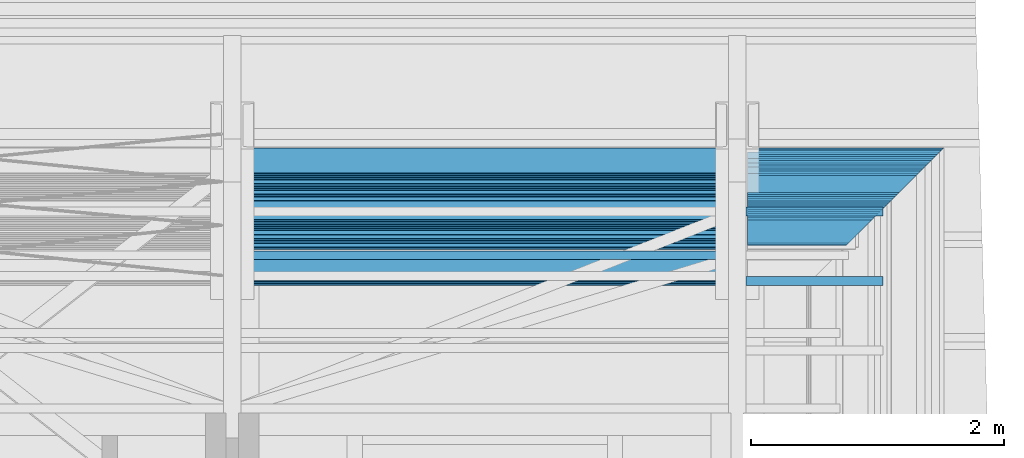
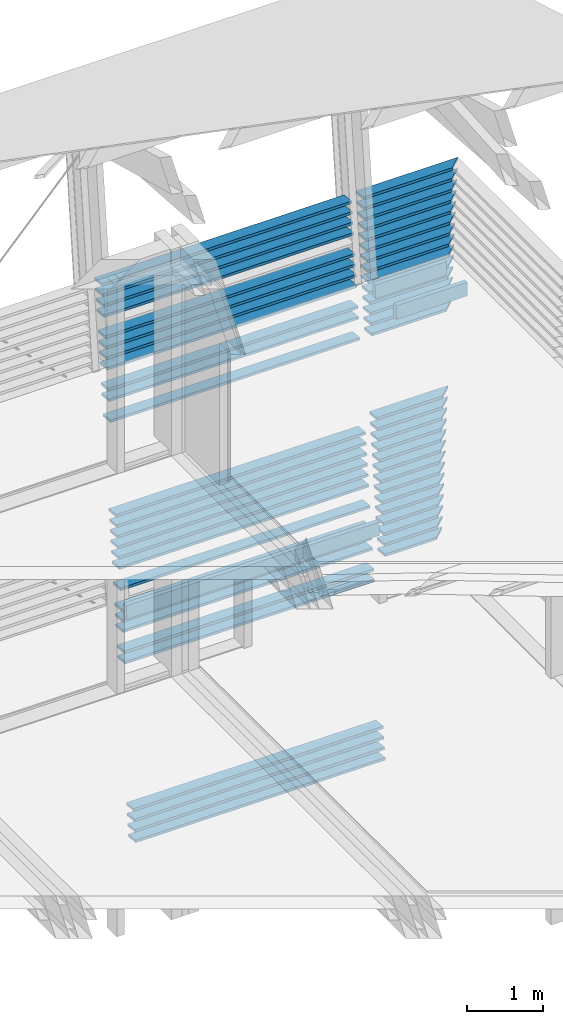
# One storey, part 28 of 48: 58 beams.
"""IFC2X3 building model written with IfcOpenShell, lengths in metres."""

from ifc_helpers import new_model, si_unit, direction, frame, origin_with_axes, place, context, subcontext, project, spatial, faceted_brep, material, element, save


model = new_model("IFC2X3")

# Units and contexts
model_context = context("Model", 3, precision=1e-06, world=origin_with_axes(), true_north=direction((0.0, 1.0, 0.0)))
body_context = subcontext(model_context, "Body", "Model", "MODEL_VIEW")
ifc_project = project(units=[si_unit("LENGTHUNIT", "METRE"), si_unit("AREAUNIT", "SQUARE_METRE"), si_unit("VOLUMEUNIT", "CUBIC_METRE"), si_unit("PLANEANGLEUNIT", "RADIAN")], contexts=[model_context])

# Site, building, storey
site_placement = place(None, origin_with_axes())
site = spatial("IfcSite", under=ifc_project, at=site_placement, CompositionType="ELEMENT")
building_placement = place(site_placement, origin_with_axes())
building = spatial("IfcBuilding", under=site, at=building_placement, Name="Building 1", CompositionType="ELEMENT")
storey_placement = place(building_placement, origin_with_axes())
storey = spatial("IfcBuildingStorey", under=building, at=storey_placement, Name="Storey 1", CompositionType="ELEMENT", Elevation=0.0)

# Beams
ifc_material_1 = material(Name="Moabi")
beam_1_placement = place(storey_placement, frame((69.3927437, -182.77016, 8.9875849), z_axis=(0.0, -0.9945219, 0.1045285), x_axis=(-1.0, 0.0, 0.0)))
element("IfcBeam", 1, at=beam_1_placement, inside=storey, material=ifc_material_1, Name="garde corp", context=body_context, shape_type="Brep", body=[
    faceted_brep([(3.806, -0.02, 0.1), (3.806, 0.02, 0.1), (0.0, 0.02, 0.1), (0.0, -0.02, 0.1), (3.806, 0.02, -0.1), (0.0, 0.02, -0.1), (3.806, -0.02, -0.1), (0.0, -0.02, -0.1)], [[[0, 1, 2, 3]], [[1, 4, 5, 2]], [[4, 6, 7, 5]], [[6, 0, 3, 7]], [[1, 0, 6, 4]], [[7, 3, 2, 5]]]),
])
beam_2_placement = place(storey_placement, frame((70.6405199, -183.2551721, 4.3730033), z_axis=(0.0, -0.9945219, 0.1045285), x_axis=(-1.0, 0.0, 0.0)))
element("IfcBeam", 2, at=beam_2_placement, inside=storey, material=ifc_material_1, Name="garde corp", context=body_context, shape_type="Brep", body=[
    faceted_brep([(0.0041811, 0.02, -0.1), (0.0, -0.02, -0.1), (0.1989044, -0.02, 0.1), (0.2030855, 0.02, 0.1), (1.068997, -0.02, -0.1), (1.068997, -0.02, 0.1), (1.068997, 0.02, -0.1), (1.068997, 0.02, 0.1)], [[[0, 1, 2, 3]], [[2, 1, 4, 5]], [[1, 0, 6, 4]], [[0, 3, 7, 6]], [[3, 2, 5, 7]], [[7, 5, 4, 6]]]),
])
beam_3_placement = place(storey_placement, frame((70.7074182, -183.1882738, 5.0094973), z_axis=(0.0, -0.9945219, 0.1045285), x_axis=(-1.0, 0.0, 0.0)))
element("IfcBeam", 3, at=beam_3_placement, inside=storey, material=ifc_material_1, Name="garde corp", context=body_context, shape_type="Brep", body=[
    faceted_brep([(0.0041811, 0.02, -0.1), (0.0, -0.02, -0.1), (0.1989044, -0.02, 0.1), (0.2030855, 0.02, 0.1), (1.1358953, -0.02, -0.1), (1.1358953, -0.02, 0.1), (1.1358953, 0.02, -0.1), (1.1358953, 0.02, 0.1)], [[[0, 1, 2, 3]], [[2, 1, 4, 5]], [[1, 0, 6, 4]], [[0, 3, 7, 6]], [[3, 2, 5, 7]], [[7, 5, 4, 6]]]),
])
beam_4_placement = place(storey_placement, frame((70.7575918, -183.1381002, 5.4868678), z_axis=(0.0, -0.9945219, 0.1045285), x_axis=(-1.0, 0.0, 0.0)))
element("IfcBeam", 4, at=beam_4_placement, inside=storey, material=ifc_material_1, Name="garde corp", context=body_context, shape_type="Brep", body=[
    faceted_brep([(0.0041811, 0.02, -0.1), (0.0, -0.02, -0.1), (0.1989044, -0.02, 0.1), (0.2030855, 0.02, 0.1), (1.1860689, -0.02, -0.1), (1.1860689, -0.02, 0.1), (1.1860689, 0.02, -0.1), (1.1860689, 0.02, 0.1)], [[[0, 1, 2, 3]], [[2, 1, 4, 5]], [[1, 0, 6, 4]], [[0, 3, 7, 6]], [[3, 2, 5, 7]], [[7, 5, 4, 6]]]),
])
beam_5_placement = place(storey_placement, frame((70.6237954, -183.2718966, 4.2138798), z_axis=(0.0, -0.9945219, 0.1045285), x_axis=(-1.0, 0.0, 0.0)))
element("IfcBeam", 5, at=beam_5_placement, inside=storey, material=ifc_material_1, Name="garde corp", context=body_context, shape_type="Brep", body=[
    faceted_brep([(0.0041811, 0.02, -0.1), (0.0, -0.02, -0.1), (0.1989044, -0.02, 0.1), (0.2030855, 0.02, 0.1), (1.0522725, -0.02, -0.1), (1.0522725, -0.02, 0.1), (1.0522725, 0.02, -0.1), (1.0522725, 0.02, 0.1)], [[[0, 1, 2, 3]], [[2, 1, 4, 5]], [[1, 0, 6, 4]], [[0, 3, 7, 6]], [[3, 2, 5, 7]], [[7, 5, 4, 6]]]),
])
beam_6_placement = place(storey_placement, frame((70.9582865, -182.9374055, 7.3963498), z_axis=(0.0, -0.9945219, 0.1045285), x_axis=(-1.0, 0.0, 0.0)))
element("IfcBeam", 6, at=beam_6_placement, inside=storey, material=ifc_material_1, Name="garde corp", context=body_context, shape_type="Brep", body=[
    faceted_brep([(0.0041811, 0.02, -0.1), (0.0, -0.02, -0.1), (0.1989044, -0.02, 0.1), (0.2030855, 0.02, 0.1), (1.3867636, -0.02, -0.1), (1.3867636, -0.02, 0.1), (1.3867636, 0.02, -0.1), (1.3867636, 0.02, 0.1)], [[[0, 1, 2, 3]], [[2, 1, 4, 5]], [[1, 0, 6, 4]], [[0, 3, 7, 6]], [[3, 2, 5, 7]], [[7, 5, 4, 6]]]),
])
beam_7_placement = place(storey_placement, frame((70.7241427, -183.1715493, 5.1686208), z_axis=(0.0, -0.9945219, 0.1045285), x_axis=(-1.0, 0.0, 0.0)))
element("IfcBeam", 7, at=beam_7_placement, inside=storey, material=ifc_material_1, Name="garde corp", context=body_context, shape_type="Brep", body=[
    faceted_brep([(0.0041811, 0.02, -0.1), (0.0, -0.02, -0.1), (0.1989044, -0.02, 0.1), (0.2030855, 0.02, 0.1), (1.1526198, -0.02, -0.1), (1.1526198, -0.02, 0.1), (1.1526198, 0.02, -0.1), (1.1526198, 0.02, 0.1)], [[[0, 1, 2, 3]], [[2, 1, 4, 5]], [[1, 0, 6, 4]], [[0, 3, 7, 6]], [[3, 2, 5, 7]], [[7, 5, 4, 6]]]),
])
beam_8_placement = place(storey_placement, frame((70.9081128, -182.9875792, 6.9189793), z_axis=(0.0, -0.9945219, 0.1045285), x_axis=(-1.0, 0.0, 0.0)))
element("IfcBeam", 8, at=beam_8_placement, inside=storey, material=ifc_material_1, Name="garde corp", context=body_context, shape_type="Brep", body=[
    faceted_brep([(0.0041811, 0.02, -0.1), (0.0, -0.02, -0.1), (0.1989044, -0.02, 0.1), (0.2030855, 0.02, 0.1), (1.3365899, -0.02, -0.1), (1.3365899, -0.02, 0.1), (1.3365899, 0.02, -0.1), (1.3365899, 0.02, 0.1)], [[[0, 1, 2, 3]], [[2, 1, 4, 5]], [[1, 0, 6, 4]], [[0, 3, 7, 6]], [[3, 2, 5, 7]], [[7, 5, 4, 6]]]),
])
beam_9_placement = place(storey_placement, frame((71.0084601, -182.8872319, 7.8737203), z_axis=(0.0, -0.9945219, 0.1045285), x_axis=(-1.0, 0.0, 0.0)))
element("IfcBeam", 9, at=beam_9_placement, inside=storey, material=ifc_material_1, Name="garde corp", context=body_context, shape_type="Brep", body=[
    faceted_brep([(0.0041811, 0.02, -0.1), (0.0, -0.02, -0.1), (0.1989044, -0.02, 0.1), (0.2030855, 0.02, 0.1), (1.4369258, -0.02, -0.1), (1.4369372, -0.02, 0.1), (1.4369372, 0.02, -0.1), (1.4369258, 0.02, 0.1)], [[[0, 1, 2, 3]], [[2, 1, 4, 5]], [[1, 0, 6, 4]], [[0, 3, 7, 6]], [[3, 2, 5, 7]], [[7, 5, 4, 6]]]),
])
beam_10_placement = place(storey_placement, frame((71.0920829, -182.8036091, 8.6693379), z_axis=(0.0, -0.9945219, 0.1045285), x_axis=(-1.0, 0.0, 0.0)))
element("IfcBeam", 10, at=beam_10_placement, inside=storey, material=ifc_material_1, Name="garde corp", context=body_context, shape_type="Brep", body=[
    faceted_brep([(0.0041811, 0.02, -0.1), (0.0, -0.02, -0.1), (0.1989044, -0.02, 0.1), (0.2030855, 0.02, 0.1), (1.5205604, -0.02, -0.1), (1.5205604, -0.02, 0.1), (1.5205604, 0.02, -0.1), (1.5205604, 0.02, 0.1)], [[[0, 1, 2, 3]], [[2, 1, 4, 5]], [[1, 0, 6, 4]], [[0, 3, 7, 6]], [[3, 2, 5, 7]], [[7, 5, 4, 6]]]),
])
beam_11_placement = place(storey_placement, frame((70.673969, -183.221723, 4.6912503), z_axis=(0.0, -0.9945219, 0.1045285), x_axis=(-1.0, 0.0, 0.0)))
element("IfcBeam", 11, at=beam_11_placement, inside=storey, material=ifc_material_1, Name="garde corp", context=body_context, shape_type="Brep", body=[
    faceted_brep([(0.0041811, 0.02, -0.1), (0.0, -0.02, -0.1), (0.1989044, -0.02, 0.1), (0.2030855, 0.02, 0.1), (1.1024462, -0.02, -0.1), (1.1024462, -0.02, 0.1), (1.1024462, 0.02, -0.1), (1.1024462, 0.02, 0.1)], [[[0, 1, 2, 3]], [[2, 1, 4, 5]], [[1, 0, 6, 4]], [[0, 3, 7, 6]], [[3, 2, 5, 7]], [[7, 5, 4, 6]]]),
])
beam_12_placement = place(storey_placement, frame((70.7743164, -183.1213756, 5.6459913), z_axis=(0.0, -0.9945219, 0.1045285), x_axis=(-1.0, 0.0, 0.0)))
element("IfcBeam", 12, at=beam_12_placement, inside=storey, material=ifc_material_1, Name="garde corp", context=body_context, shape_type="Brep", body=[
    faceted_brep([(0.0041811, 0.02, -0.1), (0.0, -0.02, -0.1), (0.1989044, -0.02, 0.1), (0.2030855, 0.02, 0.1), (1.2027935, -0.02, -0.1), (1.2027935, -0.02, 0.1), (1.2027935, 0.02, -0.1), (1.2027935, 0.02, 0.1)], [[[0, 1, 2, 3]], [[2, 1, 4, 5]], [[1, 0, 6, 4]], [[0, 3, 7, 6]], [[3, 2, 5, 7]], [[7, 5, 4, 6]]]),
])
beam_13_placement = place(storey_placement, frame((70.6070708, -183.2886212, 4.0547563), z_axis=(0.0, -0.9945219, 0.1045285), x_axis=(-1.0, 0.0, 0.0)))
element("IfcBeam", 13, at=beam_13_placement, inside=storey, material=ifc_material_1, Name="garde corp", context=body_context, shape_type="Brep", body=[
    faceted_brep([(0.0041811, 0.02, -0.1), (0.0, -0.02, -0.1), (0.1989044, -0.02, 0.1), (0.2030855, 0.02, 0.1), (1.0355479, -0.02, -0.1), (1.0355479, -0.02, 0.1), (1.0355479, 0.02, -0.1), (1.0355479, 0.02, 0.1)], [[[0, 1, 2, 3]], [[2, 1, 4, 5]], [[1, 0, 6, 4]], [[0, 3, 7, 6]], [[3, 2, 5, 7]], [[7, 5, 4, 6]]]),
])
beam_14_placement = place(storey_placement, frame((71.0586338, -182.8370582, 8.3510909), z_axis=(0.0, -0.9945219, 0.1045285), x_axis=(-1.0, 0.0, 0.0)))
element("IfcBeam", 14, at=beam_14_placement, inside=storey, material=ifc_material_1, Name="garde corp", context=body_context, shape_type="Brep", body=[
    faceted_brep([(0.0041811, 0.02, -0.1), (0.0, -0.02, -0.1), (0.1989044, -0.02, 0.1), (0.2030855, 0.02, 0.1), (1.4871109, -0.02, -0.1), (1.4871109, -0.02, 0.1), (1.4871109, 0.02, -0.1), (1.4871109, 0.02, 0.1)], [[[0, 1, 2, 3]], [[2, 1, 4, 5]], [[1, 0, 6, 4]], [[0, 3, 7, 6]], [[3, 2, 5, 7]], [[7, 5, 4, 6]]]),
])
beam_15_placement = place(storey_placement, frame((71.0753583, -182.8203337, 8.5102144), z_axis=(0.0, -0.9945219, 0.1045285), x_axis=(-1.0, 0.0, 0.0)))
element("IfcBeam", 15, at=beam_15_placement, inside=storey, material=ifc_material_1, Name="garde corp", context=body_context, shape_type="Brep", body=[
    faceted_brep([(0.0041811, 0.02, -0.1), (0.0, -0.02, -0.1), (0.1989044, -0.02, 0.1), (0.2030855, 0.02, 0.1), (1.503824, -0.02, -0.1), (1.503824, -0.02, 0.1), (1.503824, 0.02, -0.1), (1.503824, 0.02, 0.1)], [[[0, 1, 2, 3]], [[2, 1, 4, 5]], [[1, 0, 6, 4]], [[0, 3, 7, 6]], [[3, 2, 5, 7]], [[7, 5, 4, 6]]]),
])
beam_16_placement = place(storey_placement, frame((70.9248374, -182.9708546, 7.0781028), z_axis=(0.0, -0.9945219, 0.1045285), x_axis=(-1.0, 0.0, 0.0)))
element("IfcBeam", 16, at=beam_16_placement, inside=storey, material=ifc_material_1, Name="garde corp", context=body_context, shape_type="Brep", body=[
    faceted_brep([(0.0041811, 0.02, -0.1), (0.0, -0.02, -0.1), (0.1989044, -0.02, 0.1), (0.2030855, 0.02, 0.1), (1.3533145, -0.02, -0.1), (1.3533145, -0.02, 0.1), (1.3533145, 0.02, -0.1), (1.3533145, 0.02, 0.1)], [[[0, 1, 2, 3]], [[2, 1, 4, 5]], [[1, 0, 6, 4]], [[0, 3, 7, 6]], [[3, 2, 5, 7]], [[7, 5, 4, 6]]]),
])
beam_17_placement = place(storey_placement, frame((70.6906936, -183.2049984, 4.8503738), z_axis=(0.0, -0.9945219, 0.1045285), x_axis=(-1.0, 0.0, 0.0)))
element("IfcBeam", 17, at=beam_17_placement, inside=storey, material=ifc_material_1, Name="garde corp", context=body_context, shape_type="Brep", body=[
    faceted_brep([(0.0041811, 0.02, -0.1), (0.0, -0.02, -0.1), (0.1989044, -0.02, 0.1), (0.2030855, 0.02, 0.1), (1.1191707, -0.02, -0.1), (1.1191707, -0.02, 0.1), (1.1191707, 0.02, -0.1), (1.1191707, 0.02, 0.1)], [[[0, 1, 2, 3]], [[2, 1, 4, 5]], [[1, 0, 6, 4]], [[0, 3, 7, 6]], [[3, 2, 5, 7]], [[7, 5, 4, 6]]]),
])
beam_18_placement = place(storey_placement, frame((71.1088075, -182.7868846, 8.8284614), z_axis=(0.0, -0.9945219, 0.1045285), x_axis=(-1.0, 0.0, 0.0)))
element("IfcBeam", 18, at=beam_18_placement, inside=storey, material=ifc_material_1, Name="garde corp", context=body_context, shape_type="Brep", body=[
    faceted_brep([(0.0041811, 0.02, -0.1), (0.0, -0.02, -0.1), (0.1989044, -0.02, 0.1), (0.2030855, 0.02, 0.1), (1.5372846, -0.02, -0.1), (1.5372846, -0.02, 0.1), (1.5372846, 0.02, -0.1), (1.5372846, 0.02, 0.1)], [[[0, 1, 2, 3]], [[2, 1, 4, 5]], [[1, 0, 6, 4]], [[0, 3, 7, 6]], [[3, 2, 5, 7]], [[7, 5, 4, 6]]]),
])
beam_19_placement = place(storey_placement, frame((71.125532, -182.77016, 8.9875849), z_axis=(0.0, -0.9945219, 0.1045285), x_axis=(-1.0, 0.0, 0.0)))
element("IfcBeam", 19, at=beam_19_placement, inside=storey, material=ifc_material_1, Name="garde corp", context=body_context, shape_type="Brep", body=[
    faceted_brep([(0.0041811, 0.02, -0.1), (0.0, -0.02, -0.1), (0.1989044, -0.02, 0.1), (0.2030855, 0.02, 0.1), (1.5540095, -0.02, -0.1), (1.5540095, -0.02, 0.1), (1.5540095, 0.02, -0.1), (1.5540095, 0.02, 0.1)], [[[0, 1, 2, 3]], [[2, 1, 4, 5]], [[1, 0, 6, 4]], [[0, 3, 7, 6]], [[3, 2, 5, 7]], [[7, 5, 4, 6]]]),
])
beam_20_placement = place(storey_placement, frame((71.0419092, -182.8537828, 8.1919674), z_axis=(0.0, -0.9945219, 0.1045285), x_axis=(-1.0, 0.0, 0.0)))
element("IfcBeam", 20, at=beam_20_placement, inside=storey, material=ifc_material_1, Name="garde corp", context=body_context, shape_type="Brep", body=[
    faceted_brep([(0.0041811, 0.02, -0.1), (0.0, -0.02, -0.1), (0.1989044, -0.02, 0.1), (0.2030855, 0.02, 0.1), (1.4703863, -0.02, -0.1), (1.4703863, -0.02, 0.1), (1.4703863, 0.02, -0.1), (1.4703863, 0.02, 0.1)], [[[0, 1, 2, 3]], [[2, 1, 4, 5]], [[1, 0, 6, 4]], [[0, 3, 7, 6]], [[3, 2, 5, 7]], [[7, 5, 4, 6]]]),
])
beam_21_placement = place(storey_placement, frame((71.0251847, -182.8705073, 8.0328439), z_axis=(0.0, -0.9945219, 0.1045285), x_axis=(-1.0, 0.0, 0.0)))
element("IfcBeam", 21, at=beam_21_placement, inside=storey, material=ifc_material_1, Name="garde corp", context=body_context, shape_type="Brep", body=[
    faceted_brep([(0.0041811, 0.02, -0.1), (0.0, -0.02, -0.1), (0.1989044, -0.02, 0.1), (0.2030855, 0.02, 0.1), (1.4536622, -0.02, -0.1), (1.4536622, -0.02, 0.1), (1.4536622, 0.02, -0.1), (1.4536622, 0.02, 0.1)], [[[0, 1, 2, 3]], [[2, 1, 4, 5]], [[1, 0, 6, 4]], [[0, 3, 7, 6]], [[3, 2, 5, 7]], [[7, 5, 4, 6]]]),
])
beam_22_placement = place(storey_placement, frame((70.975011, -182.920681, 7.5554733), z_axis=(0.0, -0.9945219, 0.1045285), x_axis=(-1.0, 0.0, 0.0)))
element("IfcBeam", 22, at=beam_22_placement, inside=storey, material=ifc_material_1, Name="garde corp", context=body_context, shape_type="Brep", body=[
    faceted_brep([(0.0041811, 0.02, -0.1), (0.0, -0.02, -0.1), (0.1989044, -0.02, 0.1), (0.2030855, 0.02, 0.1), (1.4034881, -0.02, -0.1), (1.4034881, -0.02, 0.1), (1.4034881, 0.02, -0.1), (1.4034881, 0.02, 0.1)], [[[0, 1, 2, 3]], [[2, 1, 4, 5]], [[1, 0, 6, 4]], [[0, 3, 7, 6]], [[3, 2, 5, 7]], [[7, 5, 4, 6]]]),
])
beam_23_placement = place(storey_placement, frame((70.9917356, -182.9039564, 7.7145968), z_axis=(0.0, -0.9945219, 0.1045285), x_axis=(-1.0, 0.0, 0.0)))
element("IfcBeam", 23, at=beam_23_placement, inside=storey, material=ifc_material_1, Name="garde corp", context=body_context, shape_type="Brep", body=[
    faceted_brep([(0.0041811, 0.02, -0.1), (0.0, -0.02, -0.1), (0.1989044, -0.02, 0.1), (0.2030855, 0.02, 0.1), (1.4202127, -0.02, -0.1), (1.4202127, -0.02, 0.1), (1.4202127, 0.02, -0.1), (1.4202127, 0.02, 0.1)], [[[0, 1, 2, 3]], [[2, 1, 4, 5]], [[1, 0, 6, 4]], [[0, 3, 7, 6]], [[3, 2, 5, 7]], [[7, 5, 4, 6]]]),
])
beam_24_placement = place(storey_placement, frame((70.5736217, -183.3220703, 3.7365093), z_axis=(0.0, -0.9945219, 0.1045285), x_axis=(-1.0, 0.0, 0.0)))
element("IfcBeam", 24, at=beam_24_placement, inside=storey, material=ifc_material_1, Name="garde corp", context=body_context, shape_type="Brep", body=[
    faceted_brep([(0.0041811, 0.02, -0.1), (0.0, -0.02, -0.1), (0.1989044, -0.02, 0.1), (0.2030855, 0.02, 0.1), (1.0020988, -0.02, -0.1), (1.0020988, -0.02, 0.1), (1.0020988, 0.02, -0.1), (1.0020988, 0.02, 0.1)], [[[0, 1, 2, 3]], [[2, 1, 4, 5]], [[1, 0, 6, 4]], [[0, 3, 7, 6]], [[3, 2, 5, 7]], [[7, 5, 4, 6]]]),
])
beam_25_placement = place(storey_placement, frame((70.5903463, -183.3053457, 3.8956328), z_axis=(0.0, -0.9945219, 0.1045285), x_axis=(-1.0, 0.0, 0.0)))
element("IfcBeam", 25, at=beam_25_placement, inside=storey, material=ifc_material_1, Name="garde corp", context=body_context, shape_type="Brep", body=[
    faceted_brep([(0.0041811, 0.02, -0.1), (0.0, -0.02, -0.1), (0.1989044, -0.02, 0.1), (0.2030855, 0.02, 0.1), (1.0188234, -0.02, -0.1), (1.0188234, -0.02, 0.1), (1.0188234, 0.02, -0.1), (1.0188234, 0.02, 0.1)], [[[0, 1, 2, 3]], [[2, 1, 4, 5]], [[1, 0, 6, 4]], [[0, 3, 7, 6]], [[3, 2, 5, 7]], [[7, 5, 4, 6]]]),
])
beam_26_placement = place(storey_placement, frame((70.7408673, -183.1548247, 5.3277443), z_axis=(0.0, -0.9945219, 0.1045285), x_axis=(-1.0, 0.0, 0.0)))
element("IfcBeam", 26, at=beam_26_placement, inside=storey, material=ifc_material_1, Name="garde corp", context=body_context, shape_type="Brep", body=[
    faceted_brep([(0.0041811, 0.02, -0.1), (0.0, -0.02, -0.1), (0.1989044, -0.02, 0.1), (0.2030855, 0.02, 0.1), (1.1693444, -0.02, -0.1), (1.1693444, -0.02, 0.1), (1.1693444, 0.02, -0.1), (1.1693444, 0.02, 0.1)], [[[0, 1, 2, 3]], [[2, 1, 4, 5]], [[1, 0, 6, 4]], [[0, 3, 7, 6]], [[3, 2, 5, 7]], [[7, 5, 4, 6]]]),
])
beam_27_placement = place(storey_placement, frame((70.9415619, -182.9541301, 7.2372263), z_axis=(0.0, -0.9945219, 0.1045285), x_axis=(-1.0, 0.0, 0.0)))
element("IfcBeam", 27, at=beam_27_placement, inside=storey, material=ifc_material_1, Name="garde corp", context=body_context, shape_type="Brep", body=[
    faceted_brep([(0.0041811, 0.02, -0.1), (0.0, -0.02, -0.1), (0.1989044, -0.02, 0.1), (0.2030855, 0.02, 0.1), (1.370039, -0.02, -0.1), (1.370039, -0.02, 0.1), (1.370039, 0.02, -0.1), (1.370039, 0.02, 0.1)], [[[0, 1, 2, 3]], [[2, 1, 4, 5]], [[1, 0, 6, 4]], [[0, 3, 7, 6]], [[3, 2, 5, 7]], [[7, 5, 4, 6]]]),
])
beam_28_placement = place(storey_placement, frame((70.5568972, -183.3387948, 3.5773858), z_axis=(0.0, -0.9945219, 0.1045285), x_axis=(-1.0, 0.0, 0.0)))
element("IfcBeam", 28, at=beam_28_placement, inside=storey, material=ifc_material_1, Name="garde corp", context=body_context, shape_type="Brep", body=[
    faceted_brep([(0.0041811, 0.02, -0.1), (0.0, -0.02, -0.1), (0.1989044, -0.02, 0.1), (0.2030855, 0.02, 0.1), (0.9853743, -0.02, -0.1), (0.9853743, -0.02, 0.1), (0.9853743, 0.02, -0.1), (0.9853743, 0.02, 0.1)], [[[0, 1, 2, 3]], [[2, 1, 4, 5]], [[1, 0, 6, 4]], [[0, 3, 7, 6]], [[3, 2, 5, 7]], [[7, 5, 4, 6]]]),
])
beam_29_placement = place(storey_placement, frame((70.6572445, -183.2384475, 4.5321268), z_axis=(0.0, -0.9945219, 0.1045285), x_axis=(-1.0, 0.0, 0.0)))
element("IfcBeam", 29, at=beam_29_placement, inside=storey, material=ifc_material_1, Name="garde corp", context=body_context, shape_type="Brep", body=[
    faceted_brep([(0.0041811, 0.02, -0.1), (0.0, -0.02, -0.1), (0.1989044, -0.02, 0.1), (0.2030855, 0.02, 0.1), (1.0857216, -0.02, -0.1), (1.0857216, -0.02, 0.1), (1.0857216, 0.02, -0.1), (1.0857216, 0.02, 0.1)], [[[0, 1, 2, 3]], [[2, 1, 4, 5]], [[1, 0, 6, 4]], [[0, 3, 7, 6]], [[3, 2, 5, 7]], [[7, 5, 4, 6]]]),
])
for number, where, z_axis, x_axis, name in (
    (30, (69.3927441, -182.7868846, 8.8284614), (0.0, -0.9945219, 0.1045285), (-1.0, 0.0, 0.0), "garde corp"),
    (31, (69.3927441, -183.6063877, 1.0314097), (0.0, -0.9945219, 0.1045285), (-1.0, 0.0, 0.0), "garde corp"),
    (32, (69.3927441, -182.9541301, 7.2372263), (0.0, -0.9945219, 0.1045285), (-1.0, 0.0, 0.0), "garde corp"),
):
    element("IfcBeam", number, at=place(storey_placement, frame(where, z_axis=z_axis, x_axis=x_axis)), inside=storey, material=ifc_material_1, Name=name, context=body_context, shape_type="Brep", body=[
        faceted_brep([(3.806, -0.02, 0.1), (3.806, 0.02, 0.1), (0.0, 0.02, 0.1), (0.0, -0.02, 0.1), (3.806, 0.02, -0.1), (0.0, 0.02, -0.1), (3.806, -0.02, -0.1), (0.0, -0.02, -0.1)], [[[0, 1, 2, 3]], [[1, 4, 5, 2]], [[4, 6, 7, 5]], [[6, 0, 3, 7]], [[1, 0, 6, 4]], [[7, 3, 2, 5]]]),
    ])
beam_30_placement = place(storey_placement, frame((69.3927439, -183.2886212, 4.0547563), z_axis=(0.0, -0.9945219, 0.1045285), x_axis=(-1.0, 0.0, 0.0)))
element("IfcBeam", 33, at=beam_30_placement, inside=storey, material=ifc_material_1, Name="garde corp", context=body_context, shape_type="Brep", body=[
    faceted_brep([(3.8048051, -0.02, 0.1), (3.8048051, 0.02, 0.1), (0.0, 0.02, 0.1), (0.0, -0.02, 0.1), (3.8048051, 0.02, -0.1), (0.0, 0.02, -0.1), (3.8048051, -0.02, -0.1), (0.0, -0.02, -0.1)], [[[0, 1, 2, 3]], [[1, 4, 5, 2]], [[4, 6, 7, 5]], [[6, 0, 3, 7]], [[1, 0, 6, 4]], [[7, 3, 2, 5]]]),
])
beam_31_placement = place(storey_placement, frame((69.3927439, -183.1548247, 5.3277443), z_axis=(0.0, -0.9945219, 0.1045285), x_axis=(-1.0, 0.0, 0.0)))
element("IfcBeam", 34, at=beam_31_placement, inside=storey, material=ifc_material_1, Name="garde corp", context=body_context, shape_type="Brep", body=[
    faceted_brep([(3.8048053, -0.02, 0.1), (3.8048053, 0.02, 0.1), (0.0, 0.02, 0.1), (0.0, -0.02, 0.1), (3.8048051, 0.02, -0.1), (0.0, 0.02, -0.1), (3.8048053, -0.02, -0.1), (0.0, -0.02, -0.1)], [[[0, 1, 2, 3]], [[1, 4, 5, 2]], [[4, 6, 7, 5]], [[6, 0, 3, 7]], [[1, 0, 6, 4]], [[7, 3, 2, 5]]]),
])
ifc_material_2 = material(Name="GL28h")
beam_32_placement = place(storey_placement, frame((65.5597437, -183.5174506, 4.139), z_axis=(0.0, 0.0, 1.0), x_axis=(1.0, 0.0, 0.0)))
element("IfcBeam", 35, at=beam_32_placement, inside=storey, material=ifc_material_2, Name="Solive", context=body_context, shape_type="Brep", body=[
    faceted_brep([(3.86, 0.035, 0.11), (3.86, 0.035, -0.11), (0.0, 0.035, -0.11), (0.0, 0.035, 0.11), (3.86, -0.035, -0.11), (0.0, -0.035, -0.11), (3.86, -0.035, 0.11), (0.0, -0.035, 0.11)], [[[0, 1, 2, 3]], [[1, 4, 5, 2]], [[4, 6, 7, 5]], [[6, 0, 3, 7]], [[1, 0, 6, 4]], [[7, 3, 2, 5]]]),
])
for number, where, z_axis, x_axis in (
    (36, (70.6436389, -183.1714881, 7.699), (0.0, 0.0, 1.0), (-1.0, 0.0, 0.0)),
    (37, (70.6436389, -183.7214881, 7.699), (0.0, 0.0, 1.0), (-1.0, 0.0, 0.0)),
):
    element("IfcBeam", number, at=place(storey_placement, frame(where, z_axis=z_axis, x_axis=x_axis)), inside=storey, material=ifc_material_2, Name="Solive", context=body_context, shape_type="Brep", body=[
        faceted_brep([(1.0838952, -0.035, -0.11), (1.0838952, 0.035, -0.11), (1.0838952, 0.035, 0.11), (1.0838952, -0.035, 0.11), (0.0, 0.035, -0.11), (0.0, 0.035, 0.11), (0.0, -0.035, -0.11), (0.0, -0.035, 0.11)], [[[0, 1, 2, 3]], [[2, 1, 4, 5]], [[1, 0, 6, 4]], [[0, 3, 7, 6]], [[3, 2, 5, 7]], [[7, 5, 4, 6]]]),
    ])
beam_33_placement = place(storey_placement, frame((69.3927439, -183.2049984, 4.8503738), z_axis=(0.0, -0.9945219, 0.1045285), x_axis=(-1.0, 0.0, 0.0)))
element("IfcBeam", 38, at=beam_33_placement, inside=storey, material=ifc_material_1, Name="garde corp", context=body_context, shape_type="Brep", body=[
    faceted_brep([(3.8048053, -0.02, 0.1), (3.8048053, 0.02, 0.1), (0.0, 0.02, 0.1), (0.0, -0.02, 0.1), (3.8048051, 0.02, -0.1), (0.0, 0.02, -0.1), (3.8048053, -0.02, -0.1), (0.0, -0.02, -0.1)], [[[0, 1, 2, 3]], [[1, 4, 5, 2]], [[4, 6, 7, 5]], [[6, 0, 3, 7]], [[1, 0, 6, 4]], [[7, 3, 2, 5]]]),
])
beam_34_placement = place(storey_placement, frame((69.3927439, -183.3053457, 3.8956328), z_axis=(0.0, -0.9945219, 0.1045285), x_axis=(-1.0, 0.0, 0.0)))
element("IfcBeam", 39, at=beam_34_placement, inside=storey, material=ifc_material_1, Name="garde corp", context=body_context, shape_type="Brep", body=[
    faceted_brep([(3.8047073, -0.02, 0.1), (3.8047075, 0.02, 0.1), (0.0, 0.02, 0.1), (0.0, -0.02, 0.1), (3.8047077, 0.02, -0.1), (0.0, 0.02, -0.1), (3.8047077, -0.02, -0.1), (0.0, -0.02, -0.1)], [[[0, 1, 2, 3]], [[1, 4, 5, 2]], [[4, 6, 7, 5]], [[6, 0, 3, 7]], [[1, 0, 6, 4]], [[7, 3, 2, 5]]]),
])
for number, where, z_axis, x_axis, name in (
    (40, (69.3927437, -182.8036091, 8.6693379), (0.0, -0.9945219, 0.1045285), (-1.0, 0.0, 0.0), "garde corp"),
    (41, (69.3927441, -182.8203337, 8.5102144), (0.0, -0.9945219, 0.1045285), (-1.0, 0.0, 0.0), "garde corp"),
    (42, (69.3927441, -182.9374055, 7.3963498), (0.0, -0.9945219, 0.1045285), (-1.0, 0.0, 0.0), "garde corp"),
    (43, (69.3927441, -182.8872319, 7.8737203), (0.0, -0.9945219, 0.1045285), (-1.0, 0.0, 0.0), "garde corp"),
):
    element("IfcBeam", number, at=place(storey_placement, frame(where, z_axis=z_axis, x_axis=x_axis)), inside=storey, material=ifc_material_1, Name=name, context=body_context, shape_type="Brep", body=[
        faceted_brep([(3.806, -0.02, 0.1), (3.806, 0.02, 0.1), (0.0, 0.02, 0.1), (0.0, -0.02, 0.1), (3.806, 0.02, -0.1), (0.0, 0.02, -0.1), (3.806, -0.02, -0.1), (0.0, -0.02, -0.1)], [[[0, 1, 2, 3]], [[1, 4, 5, 2]], [[4, 6, 7, 5]], [[6, 0, 3, 7]], [[1, 0, 6, 4]], [[7, 3, 2, 5]]]),
    ])
beam_35_placement = place(storey_placement, frame((69.3927439, -183.1882738, 5.0094973), z_axis=(0.0, -0.9945219, 0.1045285), x_axis=(-1.0, 0.0, 0.0)))
element("IfcBeam", 44, at=beam_35_placement, inside=storey, material=ifc_material_1, Name="garde corp", context=body_context, shape_type="Brep", body=[
    faceted_brep([(3.8047077, -0.02, 0.1), (3.8047077, 0.02, 0.1), (0.0, 0.02, 0.1), (0.0, -0.02, 0.1), (3.8047077, 0.02, -0.1), (0.0, 0.02, -0.1), (3.8047077, -0.02, -0.1), (0.0, -0.02, -0.1)], [[[0, 1, 2, 3]], [[1, 4, 5, 2]], [[4, 6, 7, 5]], [[6, 0, 3, 7]], [[1, 0, 6, 4]], [[7, 3, 2, 5]]]),
])
beam_36_placement = place(storey_placement, frame((69.3927439, -183.1715493, 5.1686208), z_axis=(0.0, -0.9945219, 0.1045285), x_axis=(-1.0, 0.0, 0.0)))
element("IfcBeam", 45, at=beam_36_placement, inside=storey, material=ifc_material_1, Name="garde corp", context=body_context, shape_type="Brep", body=[
    faceted_brep([(3.8048053, -0.02, 0.1), (3.8048053, 0.02, 0.1), (0.0, 0.02, 0.1), (0.0, -0.02, 0.1), (3.8048051, 0.02, -0.1), (0.0, 0.02, -0.1), (3.8048053, -0.02, -0.1), (0.0, -0.02, -0.1)], [[[0, 1, 2, 3]], [[1, 4, 5, 2]], [[4, 6, 7, 5]], [[6, 0, 3, 7]], [[1, 0, 6, 4]], [[7, 3, 2, 5]]]),
])
for number, where, z_axis, x_axis, name in (
    (46, (69.3927441, -183.6231123, 0.8722862), (0.0, -0.9945219, 0.1045285), (-1.0, 0.0, 0.0), "garde corp"),
    (47, (69.3927441, -183.6565614, 0.5540392), (0.0, -0.9945219, 0.1045285), (-1.0, 0.0, 0.0), "garde corp"),
):
    element("IfcBeam", number, at=place(storey_placement, frame(where, z_axis=z_axis, x_axis=x_axis)), inside=storey, material=ifc_material_1, Name=name, context=body_context, shape_type="Brep", body=[
        faceted_brep([(3.806, -0.02, 0.1), (3.806, 0.02, 0.1), (0.0, 0.02, 0.1), (0.0, -0.02, 0.1), (3.806, 0.02, -0.1), (0.0, 0.02, -0.1), (3.806, -0.02, -0.1), (0.0, -0.02, -0.1)], [[[0, 1, 2, 3]], [[1, 4, 5, 2]], [[4, 6, 7, 5]], [[6, 0, 3, 7]], [[1, 0, 6, 4]], [[7, 3, 2, 5]]]),
    ])
beam_37_placement = place(storey_placement, frame((69.3927439, -183.3722439, 3.2591388), z_axis=(0.0, -0.9945219, 0.1045285), x_axis=(-1.0, 0.0, 0.0)))
element("IfcBeam", 48, at=beam_37_placement, inside=storey, material=ifc_material_1, Name="garde corp", context=body_context, shape_type="Brep", body=[
    faceted_brep([(3.8048051, -0.02, 0.1), (3.8048051, 0.02, 0.1), (0.0, 0.02, 0.1), (0.0, -0.02, 0.1), (3.8048051, 0.02, -0.1), (0.0, 0.02, -0.1), (3.8048051, -0.02, -0.1), (0.0, -0.02, -0.1)], [[[0, 1, 2, 3]], [[1, 4, 5, 2]], [[4, 6, 7, 5]], [[6, 0, 3, 7]], [[1, 0, 6, 4]], [[7, 3, 2, 5]]]),
])
beam_38_placement = place(storey_placement, frame((69.3927441, -182.9875792, 6.9189793), z_axis=(0.0, -0.9945219, 0.1045285), x_axis=(-1.0, 0.0, 0.0)))
element("IfcBeam", 49, at=beam_38_placement, inside=storey, material=ifc_material_1, Name="garde corp", context=body_context, shape_type="Brep", body=[
    faceted_brep([(3.806, -0.02, 0.1), (3.806, 0.02, 0.1), (0.0, 0.02, 0.1), (0.0, -0.02, 0.1), (3.806, 0.02, -0.1), (0.0, 0.02, -0.1), (3.806, -0.02, -0.1), (0.0, -0.02, -0.1)], [[[0, 1, 2, 3]], [[1, 4, 5, 2]], [[4, 6, 7, 5]], [[6, 0, 3, 7]], [[1, 0, 6, 4]], [[7, 3, 2, 5]]]),
])
beam_39_placement = place(storey_placement, frame((69.3927439, -183.3555194, 3.4182623), z_axis=(0.0, -0.9945219, 0.1045285), x_axis=(-1.0, 0.0, 0.0)))
element("IfcBeam", 50, at=beam_39_placement, inside=storey, material=ifc_material_1, Name="garde corp", context=body_context, shape_type="Brep", body=[
    faceted_brep([(3.8047073, -0.02, 0.1), (3.8047077, 0.02, 0.1), (0.0, 0.02, 0.1), (0.0, -0.02, 0.1), (3.8047077, 0.02, -0.1), (0.0, 0.02, -0.1), (3.8047077, -0.02, -0.1), (0.0, -0.02, -0.1)], [[[0, 1, 2, 3]], [[1, 4, 5, 2]], [[4, 6, 7, 5]], [[6, 0, 3, 7]], [[1, 0, 6, 4]], [[7, 3, 2, 5]]]),
])
beam_40_placement = place(storey_placement, frame((69.3927441, -182.8537828, 8.1919674), z_axis=(0.0, -0.9945219, 0.1045285), x_axis=(-1.0, 0.0, 0.0)))
element("IfcBeam", 51, at=beam_40_placement, inside=storey, material=ifc_material_1, Name="garde corp", context=body_context, shape_type="Brep", body=[
    faceted_brep([(3.806, -0.02, 0.1), (3.806, 0.02, 0.1), (0.0, 0.02, 0.1), (0.0, -0.02, 0.1), (3.806, 0.02, -0.1), (0.0, 0.02, -0.1), (3.806, -0.02, -0.1), (0.0, -0.02, -0.1)], [[[0, 1, 2, 3]], [[1, 4, 5, 2]], [[4, 6, 7, 5]], [[6, 0, 3, 7]], [[1, 0, 6, 4]], [[7, 3, 2, 5]]]),
])
beam_41_placement = place(storey_placement, frame((69.3927439, -183.2551721, 4.3730033), z_axis=(0.0, -0.9945219, 0.1045285), x_axis=(-1.0, 0.0, 0.0)))
element("IfcBeam", 52, at=beam_41_placement, inside=storey, material=ifc_material_1, Name="garde corp", context=body_context, shape_type="Brep", body=[
    faceted_brep([(3.8048051, -0.02, 0.1), (3.8048051, 0.02, 0.1), (0.0, 0.02, 0.1), (0.0, -0.02, 0.1), (3.8048051, 0.02, -0.1), (0.0, 0.02, -0.1), (3.8048051, -0.02, -0.1), (0.0, -0.02, -0.1)], [[[0, 1, 2, 3]], [[1, 4, 5, 2]], [[4, 6, 7, 5]], [[6, 0, 3, 7]], [[1, 0, 6, 4]], [[7, 3, 2, 5]]]),
])
beam_42_placement = place(storey_placement, frame((69.3927439, -183.3220703, 3.7365093), z_axis=(0.0, -0.9945219, 0.1045285), x_axis=(-1.0, 0.0, 0.0)))
element("IfcBeam", 53, at=beam_42_placement, inside=storey, material=ifc_material_1, Name="garde corp", context=body_context, shape_type="Brep", body=[
    faceted_brep([(3.8047073, -0.02, 0.1), (3.8047077, 0.02, 0.1), (0.0, 0.02, 0.1), (0.0, -0.02, 0.1), (3.8047077, 0.02, -0.1), (0.0, 0.02, -0.1), (3.8047077, -0.02, -0.1), (0.0, -0.02, -0.1)], [[[0, 1, 2, 3]], [[1, 4, 5, 2]], [[4, 6, 7, 5]], [[6, 0, 3, 7]], [[1, 0, 6, 4]], [[7, 3, 2, 5]]]),
])
beam_43_placement = place(storey_placement, frame((69.3927439, -183.1381002, 5.4868678), z_axis=(0.0, -0.9945219, 0.1045285), x_axis=(-1.0, 0.0, 0.0)))
element("IfcBeam", 54, at=beam_43_placement, inside=storey, material=ifc_material_1, Name="garde corp", context=body_context, shape_type="Brep", body=[
    faceted_brep([(3.8047071, -0.02, 0.1), (3.8047079, 0.02, 0.1), (0.0, 0.02, 0.1), (0.0, -0.02, 0.1), (3.8047077, 0.02, -0.1), (0.0, 0.02, -0.1), (3.8047071, -0.02, -0.1), (0.0, -0.02, -0.1)], [[[0, 1, 2, 3]], [[1, 4, 5, 2]], [[4, 6, 7, 5]], [[6, 0, 3, 7]], [[1, 0, 6, 4]], [[7, 3, 2, 5]]]),
])
beam_44_placement = place(storey_placement, frame((69.3927439, -183.221723, 4.6912503), z_axis=(0.0, -0.9945219, 0.1045285), x_axis=(-1.0, 0.0, 0.0)))
element("IfcBeam", 55, at=beam_44_placement, inside=storey, material=ifc_material_1, Name="garde corp", context=body_context, shape_type="Brep", body=[
    faceted_brep([(3.8047071, -0.02, 0.1), (3.8047079, 0.02, 0.1), (0.0, 0.02, 0.1), (0.0, -0.02, 0.1), (3.8047071, 0.02, -0.1), (0.0, 0.02, -0.1), (3.8047071, -0.02, -0.1), (0.0, -0.02, -0.1)], [[[0, 1, 2, 3]], [[1, 4, 5, 2]], [[4, 6, 7, 5]], [[6, 0, 3, 7]], [[1, 0, 6, 4]], [[7, 3, 2, 5]]]),
])
for number, where, z_axis, x_axis, name in (
    (56, (69.3927441, -183.6398368, 0.7131627), (0.0, -0.9945219, 0.1045285), (-1.0, 0.0, 0.0), "garde corp"),
    (57, (69.3927437, -182.8705073, 8.0328439), (0.0, -0.9945219, 0.1045285), (-1.0, 0.0, 0.0), "garde corp"),
    (58, (69.3927441, -182.9039564, 7.7145968), (0.0, -0.9945219, 0.1045285), (-1.0, 0.0, 0.0), "garde corp"),
):
    element("IfcBeam", number, at=place(storey_placement, frame(where, z_axis=z_axis, x_axis=x_axis)), inside=storey, material=ifc_material_1, Name=name, context=body_context, shape_type="Brep", body=[
        faceted_brep([(3.806, -0.02, 0.1), (3.806, 0.02, 0.1), (0.0, 0.02, 0.1), (0.0, -0.02, 0.1), (3.806, 0.02, -0.1), (0.0, 0.02, -0.1), (3.806, -0.02, -0.1), (0.0, -0.02, -0.1)], [[[0, 1, 2, 3]], [[1, 4, 5, 2]], [[4, 6, 7, 5]], [[6, 0, 3, 7]], [[1, 0, 6, 4]], [[7, 3, 2, 5]]]),
    ])

save(model, "model.ifc")
